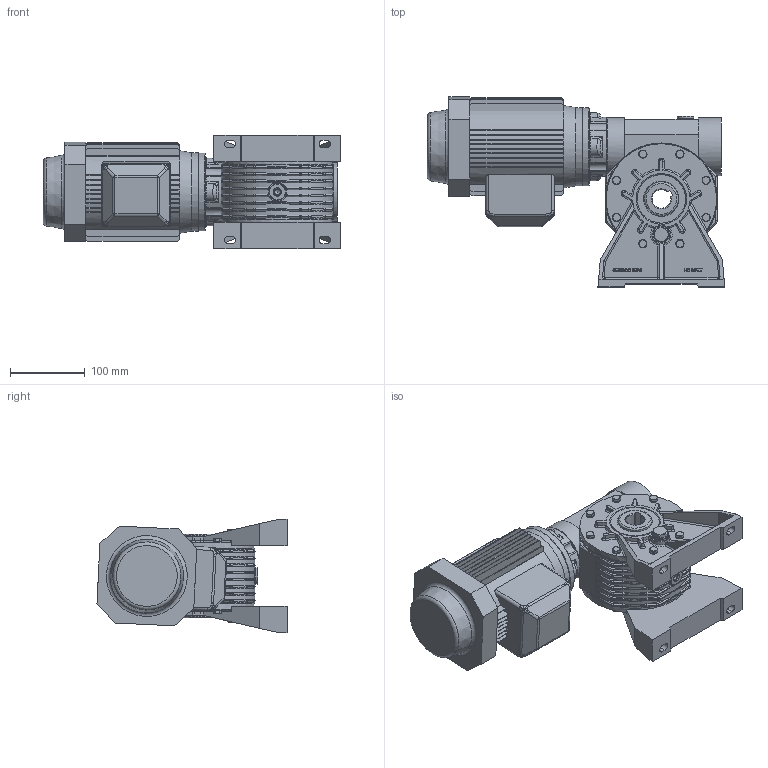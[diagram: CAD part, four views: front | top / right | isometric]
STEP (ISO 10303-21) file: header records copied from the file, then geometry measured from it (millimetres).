
FILE_DESCRIPTION((''),'2;1');
FILE_NAME('Y:\Archivi Inventor\Prog_01\GRAND_30\Figurini\MRV30 sito\71\MRV30_P2_71_B14.stp','2013-02-06T09:44:30',('tech3'),(''),'Autodesk Inventor 2013','Autodesk Inventor 2013','');
FILE_SCHEMA(('AUTOMOTIVE_DESIGN { 1 0 10303 214 1 1 1 1 }'));
Length unit declared in the file: millimetre
Products named in the file (16): MRV30_71_B14; MRV30; 0103001-A2 fig; 0103008.A1 fig F=25; PARAOLIO 45x65x10; RCA_52x7; Guarnizione 3_8 GAS; Tappo 3_8 GAS_esagn_incsst; 0103010-A0 fig; 0103029; DIN EN 24017 M6 x 20; Tappo3_8 GAS; 0103028; UNI 5931 M 8 x  25; 0103006; motori B14 71
Assembly tree (41 placements, depth 3):
  MRV30_71_B14
    MRV30
      0103001-A2 fig
      0103008.A1 fig F=25
      PARAOLIO 45x65x10  x2
      RCA_52x7
      Guarnizione 3_8 GAS  x4
      Tappo 3_8 GAS_esagn_incsst  x2
      0103010-A0 fig  x2
      0103029  x2
      DIN EN 24017 M6 x 20  x16
      Tappo3_8 GAS  x2
      0103028
      UNI 5931 M 8 x  25  x4
    0103006
    motori B14 71
Bounding box: 398.9 x 254.87 x 152.7 mm (x, y, z)
Volume: 4685592.5 mm3; surface area: 669780.8 mm2
Topology: 40 solids, 43 shells, 2606 faces, 6521 edges, 4006 vertices
Faces by surface type: plane 1345, cylinder 614, bspline 292, cone 170, torus 153, sphere 32
Full cylindrical faces by diameter (mm): 2 x2, 4.917 x20, 6 x16, 6.5 x32, 6.647 x4, 7 x4, 8 x6, 8.5 x8, 8.88 x16, 11 x16, 13 x4, 13.046 x2, 14 x1, 14.95 x4, 16.3 x4, 16.5 x2, 22 x8, 25 x3, 43 x1, 45 x4, 45.76 x1, 50.881 x2, 52 x6, 55 x1, 60.5 x2, 65 x4, 70 x1, 75 x2, 77 x1, 78 x1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
Entity records: 60642 total; most frequent: CARTESIAN_POINT 19124, ORIENTED_EDGE 8378, DIRECTION 8138, EDGE_CURVE 4189, AXIS2_PLACEMENT_3D 2912, VERTEX_POINT 2664, VECTOR 2314, LINE 2314
